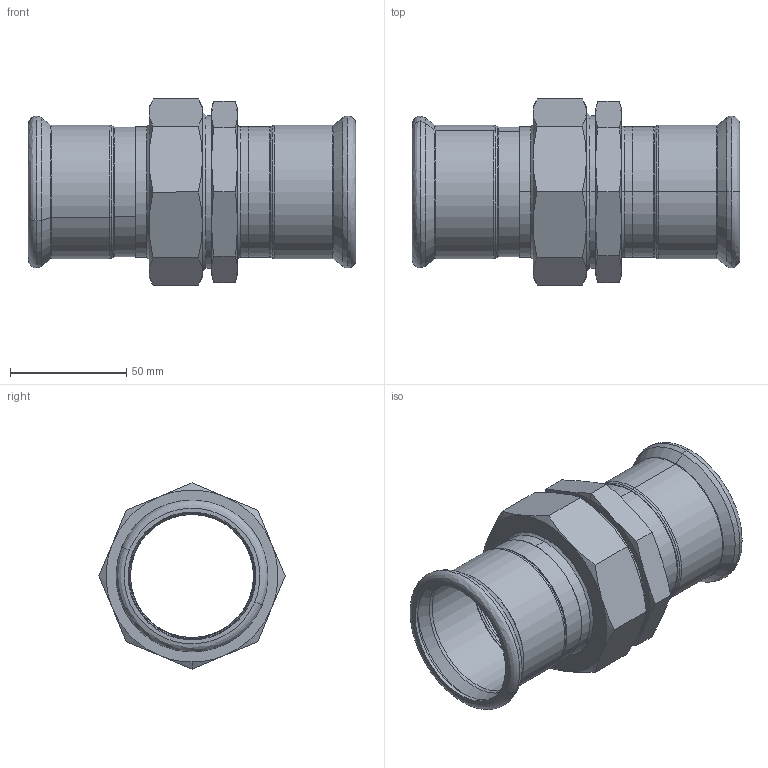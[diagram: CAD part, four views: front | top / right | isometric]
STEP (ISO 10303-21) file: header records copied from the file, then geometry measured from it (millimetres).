
FILE_DESCRIPTION (( 'STEP AP203' ), '1' );
FILE_NAME ('GDA5477.STEP', '2019-01-17T02:20:03', ( '' ), ( '' ), 'SwSTEP 2.0', 'SolidWorks 2015', '' );
FILE_SCHEMA (( 'CONFIG_CONTROL_DESIGN' ));
Length unit declared in the file: millimetre
Products named in the file (7): ZL-Ⅰ-01×2八分之三; T-ｉ-01-54; 54×2八分之三; GDA5477; 54; UN-Ⅰ-01×2八分之三; 2.3.8
Assembly tree (7 placements, depth 3):
  GDA5477
    54×2八分之三
    2.3.8
    54  x2
      T-ｉ-01-54
    UN-Ⅰ-01×2八分之三
    ZL-Ⅰ-01×2八分之三
Bounding box: 141 x 80.1 x 80.1 mm (x, y, z)
Volume: 112233.9 mm3; surface area: 77488.5 mm2
Topology: 6 solids, 6 shells, 180 faces, 374 edges, 213 vertices
Faces by surface type: cone 59, cylinder 44, bspline 42, plane 35
Entity records: 5358 total; most frequent: CARTESIAN_POINT 1719, DIRECTION 631, ORIENTED_EDGE 584, EDGE_CURVE 292, AXIS2_PLACEMENT_3D 281, VERTEX_POINT 169, EDGE_LOOP 155, CIRCLE 153
